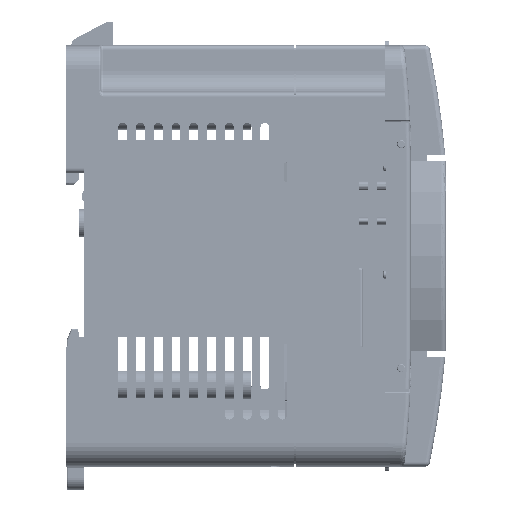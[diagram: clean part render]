
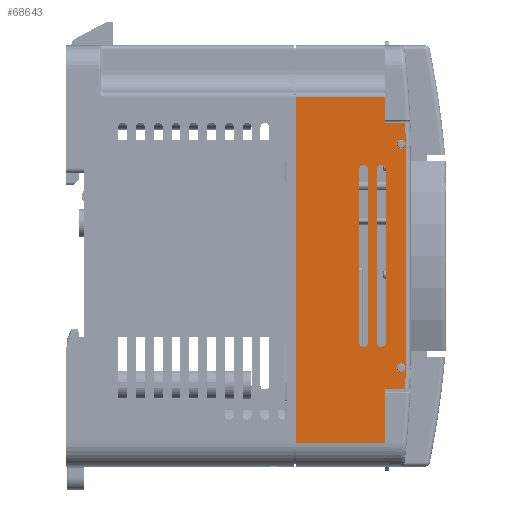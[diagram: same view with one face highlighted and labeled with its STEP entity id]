
A CAD part, left-side view. The second image highlights one B-rep face of the part: STEP entity #68643.
In plain terms, the highlighted planar face has unit normal (-1, 0, 0).
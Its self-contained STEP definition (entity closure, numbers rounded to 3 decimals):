
#52512=DIRECTION('',(0.,-1.,0.));
#52513=VECTOR('',#52512,19.);
#52514=CARTESIAN_POINT('',(-91.,9.,-34.));
#52515=LINE('',#52514,#52513);
#52520=DIRECTION('',(0.,0.,-1.));
#52521=VECTOR('',#52520,74.);
#52522=CARTESIAN_POINT('',(-91.,-10.,40.));
#52523=LINE('',#52522,#52521);
#52524=CARTESIAN_POINT('',(-91.,-185.499,-19.748));
#52525=DIRECTION('',(1.,0.,0.));
#52526=DIRECTION('',(0.,0.999,-0.044));
#52527=AXIS2_PLACEMENT_3D('',#52524,#52525,#52526);
#52529=CARTESIAN_POINT('',(-91.,-185.499,19.748));
#52530=DIRECTION('',(1.,0.,0.));
#52531=DIRECTION('',(0.,1.,0.002));
#52532=AXIS2_PLACEMENT_3D('',#52529,#52530,#52531);
#52534=DIRECTION('',(0.,-1.,0.));
#52535=VECTOR('',#52534,4.308);
#52536=CARTESIAN_POINT('',(-91.,13.308,28.5));
#52537=LINE('',#52536,#52535);
#52538=CARTESIAN_POINT('',(-91.,8.25,-18.5));
#52539=DIRECTION('',(-1.,0.,0.));
#52540=DIRECTION('',(0.,1.,0.));
#52541=AXIS2_PLACEMENT_3D('',#52538,#52539,#52540);
#52543=CARTESIAN_POINT('',(-91.,8.25,-18.5));
#52544=DIRECTION('',(-1.,0.,0.));
#52545=DIRECTION('',(0.,0.,-1.));
#52546=AXIS2_PLACEMENT_3D('',#52543,#52544,#52545);
#52548=CARTESIAN_POINT('',(-91.,8.25,18.5));
#52549=DIRECTION('',(-1.,0.,0.));
#52550=DIRECTION('',(0.,-1.,0.));
#52551=AXIS2_PLACEMENT_3D('',#52548,#52549,#52550);
#52553=CARTESIAN_POINT('',(-91.,8.25,18.5));
#52554=DIRECTION('',(-1.,0.,0.));
#52555=DIRECTION('',(0.,0.,1.));
#52556=AXIS2_PLACEMENT_3D('',#52553,#52554,#52555);
#52558=CARTESIAN_POINT('',(-91.,12.4,23.9));
#52559=DIRECTION('',(-1.,0.,0.));
#52560=DIRECTION('',(0.,0.,1.));
#52561=AXIS2_PLACEMENT_3D('',#52558,#52559,#52560);
#52563=CARTESIAN_POINT('',(-91.,12.4,23.9));
#52564=DIRECTION('',(-1.,0.,0.));
#52565=DIRECTION('',(0.,0.,-1.));
#52566=AXIS2_PLACEMENT_3D('',#52563,#52564,#52565);
#52568=CARTESIAN_POINT('',(-91.,12.4,-23.9));
#52569=DIRECTION('',(-1.,0.,0.));
#52570=DIRECTION('',(0.,0.,1.));
#52571=AXIS2_PLACEMENT_3D('',#52568,#52569,#52570);
#52573=CARTESIAN_POINT('',(-91.,12.4,-23.9));
#52574=DIRECTION('',(-1.,0.,0.));
#52575=DIRECTION('',(0.,0.,-1.));
#52576=AXIS2_PLACEMENT_3D('',#52573,#52574,#52575);
#52578=CARTESIAN_POINT('',(-91.,4.45,-18.5));
#52579=DIRECTION('',(-1.,0.,0.));
#52580=DIRECTION('',(0.,1.,0.));
#52581=AXIS2_PLACEMENT_3D('',#52578,#52579,#52580);
#52583=CARTESIAN_POINT('',(-91.,4.45,-18.5));
#52584=DIRECTION('',(-1.,0.,0.));
#52585=DIRECTION('',(0.,0.,-1.));
#52586=AXIS2_PLACEMENT_3D('',#52583,#52584,#52585);
#52588=CARTESIAN_POINT('',(-91.,4.45,18.5));
#52589=DIRECTION('',(-1.,0.,0.));
#52590=DIRECTION('',(0.,-1.,0.));
#52591=AXIS2_PLACEMENT_3D('',#52588,#52589,#52590);
#52593=CARTESIAN_POINT('',(-91.,4.45,18.5));
#52594=DIRECTION('',(-1.,0.,0.));
#52595=DIRECTION('',(0.,0.,1.));
#52596=AXIS2_PLACEMENT_3D('',#52593,#52594,#52595);
#52602=DIRECTION('',(0.,1.,0.));
#52603=VECTOR('',#52602,19.);
#52604=CARTESIAN_POINT('',(-91.,-10.,40.));
#52605=LINE('',#52604,#52603);
#54240=DIRECTION('',(0.,0.,-1.));
#54241=VECTOR('',#54240,5.5);
#54242=CARTESIAN_POINT('',(-91.,9.,-28.5));
#54243=LINE('',#54242,#54241);
#54336=DIRECTION('',(0.,-1.,0.));
#54337=VECTOR('',#54336,4.308);
#54338=CARTESIAN_POINT('',(-91.,13.308,-28.5));
#54339=LINE('',#54338,#54337);
#54353=DIRECTION('',(0.,0.,-1.));
#54354=VECTOR('',#54353,40.397);
#54355=CARTESIAN_POINT('',(-91.,13.5,20.199));
#54356=LINE('',#54355,#54354);
#55134=DIRECTION('',(0.,0.,-1.));
#55135=VECTOR('',#55134,11.5);
#55136=CARTESIAN_POINT('',(-91.,9.,40.));
#55137=LINE('',#55136,#55135);
#60208=DIRECTION('',(0.,0.,-1.));
#60209=VECTOR('',#60208,37.);
#60210=CARTESIAN_POINT('',(-91.,7.3,18.5));
#60211=LINE('',#60210,#60209);
#60240=DIRECTION('',(0.,0.,1.));
#60241=VECTOR('',#60240,37.);
#60242=CARTESIAN_POINT('',(-91.,9.2,-18.5));
#60243=LINE('',#60242,#60241);
#60284=DIRECTION('',(0.,0.,1.));
#60285=VECTOR('',#60284,37.);
#60286=CARTESIAN_POINT('',(-91.,5.4,-18.5));
#60287=LINE('',#60286,#60285);
#60308=DIRECTION('',(0.,0.,-1.));
#60309=VECTOR('',#60308,37.);
#60310=CARTESIAN_POINT('',(-91.,3.5,18.5));
#60311=LINE('',#60310,#60309);
#64484=CARTESIAN_POINT('',(-91.,7.3,18.5));
#64485=VERTEX_POINT('',#64484);
#64486=CARTESIAN_POINT('',(-91.,7.3,-18.5));
#64487=VERTEX_POINT('',#64486);
#64500=CARTESIAN_POINT('',(-91.,3.5,18.5));
#64501=VERTEX_POINT('',#64500);
#64502=CARTESIAN_POINT('',(-91.,3.5,-18.5));
#64503=VERTEX_POINT('',#64502);
#64504=CARTESIAN_POINT('',(-91.,5.4,-18.5));
#64505=VERTEX_POINT('',#64504);
#64506=CARTESIAN_POINT('',(-91.,5.4,18.5));
#64507=VERTEX_POINT('',#64506);
#64508=CARTESIAN_POINT('',(-91.,9.2,-18.5));
#64509=VERTEX_POINT('',#64508);
#64510=CARTESIAN_POINT('',(-91.,9.2,18.5));
#64511=VERTEX_POINT('',#64510);
#64512=CARTESIAN_POINT('',(-91.,8.25,-19.45));
#64513=VERTEX_POINT('',#64512);
#64514=CARTESIAN_POINT('',(-91.,-10.,40.));
#64515=CARTESIAN_POINT('',(-91.,9.,40.));
#64516=VERTEX_POINT('',#64514);
#64517=VERTEX_POINT('',#64515);
#64518=CARTESIAN_POINT('',(-91.,-10.,-34.));
#64519=VERTEX_POINT('',#64518);
#64520=CARTESIAN_POINT('',(-91.,9.,-34.));
#64521=VERTEX_POINT('',#64520);
#64522=CARTESIAN_POINT('',(-91.,9.,-28.5));
#64523=VERTEX_POINT('',#64522);
#64524=CARTESIAN_POINT('',(-91.,13.308,-28.5));
#64525=VERTEX_POINT('',#64524);
#64526=CARTESIAN_POINT('',(-91.,13.5,-20.198));
#64527=VERTEX_POINT('',#64526);
#64528=CARTESIAN_POINT('',(-91.,13.5,20.199));
#64529=VERTEX_POINT('',#64528);
#64530=CARTESIAN_POINT('',(-91.,13.308,28.5));
#64531=VERTEX_POINT('',#64530);
#64532=CARTESIAN_POINT('',(-91.,9.,28.5));
#64533=VERTEX_POINT('',#64532);
#64534=CARTESIAN_POINT('',(-91.,8.25,19.45));
#64535=VERTEX_POINT('',#64534);
#64536=CARTESIAN_POINT('',(-91.,12.4,24.85));
#64537=CARTESIAN_POINT('',(-91.,12.4,22.95));
#64538=VERTEX_POINT('',#64536);
#64539=VERTEX_POINT('',#64537);
#64540=CARTESIAN_POINT('',(-91.,12.4,-22.95));
#64541=CARTESIAN_POINT('',(-91.,12.4,-24.85));
#64542=VERTEX_POINT('',#64540);
#64543=VERTEX_POINT('',#64541);
#64544=CARTESIAN_POINT('',(-91.,4.45,-19.45));
#64545=VERTEX_POINT('',#64544);
#64546=CARTESIAN_POINT('',(-91.,4.45,19.45));
#64547=VERTEX_POINT('',#64546);
#68577=CARTESIAN_POINT('',(-91.,0.,-45.));
#68578=DIRECTION('',(-1.,0.,0.));
#68579=DIRECTION('',(0.,0.,1.));
#68580=AXIS2_PLACEMENT_3D('',#68577,#68578,#68579);
#68581=PLANE('',#68580);
#68583=ORIENTED_EDGE('',*,*,#68582,.F.);
#68585=ORIENTED_EDGE('',*,*,#68584,.T.);
#68586=ORIENTED_EDGE('',*,*,#68567,.F.);
#68588=ORIENTED_EDGE('',*,*,#68587,.F.);
#68590=ORIENTED_EDGE('',*,*,#68589,.F.);
#68592=ORIENTED_EDGE('',*,*,#68591,.T.);
#68594=ORIENTED_EDGE('',*,*,#68593,.F.);
#68596=ORIENTED_EDGE('',*,*,#68595,.T.);
#68598=ORIENTED_EDGE('',*,*,#68597,.T.);
#68600=ORIENTED_EDGE('',*,*,#68599,.F.);
#68601=EDGE_LOOP('',(#68583,#68585,#68586,#68588,#68590,#68592,#68594,#68596,
#68598,#68600));
#68602=FACE_OUTER_BOUND('',#68601,.F.);
#68604=ORIENTED_EDGE('',*,*,#68603,.T.);
#68606=ORIENTED_EDGE('',*,*,#68605,.T.);
#68608=ORIENTED_EDGE('',*,*,#68607,.F.);
#68610=ORIENTED_EDGE('',*,*,#68609,.T.);
#68612=ORIENTED_EDGE('',*,*,#68611,.T.);
#68614=ORIENTED_EDGE('',*,*,#68613,.F.);
#68615=EDGE_LOOP('',(#68604,#68606,#68608,#68610,#68612,#68614));
#68616=FACE_BOUND('',#68615,.F.);
#68618=ORIENTED_EDGE('',*,*,#68617,.T.);
#68620=ORIENTED_EDGE('',*,*,#68619,.T.);
#68621=EDGE_LOOP('',(#68618,#68620));
#68622=FACE_BOUND('',#68621,.F.);
#68624=ORIENTED_EDGE('',*,*,#68623,.T.);
#68626=ORIENTED_EDGE('',*,*,#68625,.T.);
#68627=EDGE_LOOP('',(#68624,#68626));
#68628=FACE_BOUND('',#68627,.F.);
#68630=ORIENTED_EDGE('',*,*,#68629,.T.);
#68632=ORIENTED_EDGE('',*,*,#68631,.T.);
#68634=ORIENTED_EDGE('',*,*,#68633,.F.);
#68636=ORIENTED_EDGE('',*,*,#68635,.T.);
#68638=ORIENTED_EDGE('',*,*,#68637,.T.);
#68640=ORIENTED_EDGE('',*,*,#68639,.F.);
#68641=EDGE_LOOP('',(#68630,#68632,#68634,#68636,#68638,#68640));
#68642=FACE_BOUND('',#68641,.F.);
#68643=ADVANCED_FACE('',(#68602,#68616,#68622,#68628,#68642),#68581,.T.);
#52528=CIRCLE('',#52527,199.);
#52533=CIRCLE('',#52532,199.);
#52542=CIRCLE('',#52541,0.95);
#52547=CIRCLE('',#52546,0.95);
#52552=CIRCLE('',#52551,0.95);
#52557=CIRCLE('',#52556,0.95);
#52562=CIRCLE('',#52561,0.95);
#52567=CIRCLE('',#52566,0.95);
#52572=CIRCLE('',#52571,0.95);
#52577=CIRCLE('',#52576,0.95);
#52582=CIRCLE('',#52581,0.95);
#52587=CIRCLE('',#52586,0.95);
#52592=CIRCLE('',#52591,0.95);
#52597=CIRCLE('',#52596,0.95);
#68567=EDGE_CURVE('',#64521,#64519,#52515,.T.);
#68582=EDGE_CURVE('',#64516,#64517,#52605,.T.);
#68584=EDGE_CURVE('',#64516,#64519,#52523,.T.);
#68587=EDGE_CURVE('',#64523,#64521,#54243,.T.);
#68589=EDGE_CURVE('',#64525,#64523,#54339,.T.);
#68591=EDGE_CURVE('',#64525,#64527,#52528,.T.);
#68593=EDGE_CURVE('',#64529,#64527,#54356,.T.);
#68595=EDGE_CURVE('',#64529,#64531,#52533,.T.);
#68597=EDGE_CURVE('',#64531,#64533,#52537,.T.);
#68599=EDGE_CURVE('',#64517,#64533,#55137,.T.);
#68603=EDGE_CURVE('',#64509,#64513,#52542,.T.);
#68605=EDGE_CURVE('',#64513,#64487,#52547,.T.);
#68607=EDGE_CURVE('',#64485,#64487,#60211,.T.);
#68609=EDGE_CURVE('',#64485,#64535,#52552,.T.);
#68611=EDGE_CURVE('',#64535,#64511,#52557,.T.);
#68613=EDGE_CURVE('',#64509,#64511,#60243,.T.);
#68617=EDGE_CURVE('',#64538,#64539,#52562,.T.);
#68619=EDGE_CURVE('',#64539,#64538,#52567,.T.);
#68623=EDGE_CURVE('',#64542,#64543,#52572,.T.);
#68625=EDGE_CURVE('',#64543,#64542,#52577,.T.);
#68629=EDGE_CURVE('',#64505,#64545,#52582,.T.);
#68631=EDGE_CURVE('',#64545,#64503,#52587,.T.);
#68633=EDGE_CURVE('',#64501,#64503,#60311,.T.);
#68635=EDGE_CURVE('',#64501,#64547,#52592,.T.);
#68637=EDGE_CURVE('',#64547,#64507,#52597,.T.);
#68639=EDGE_CURVE('',#64505,#64507,#60287,.T.);
